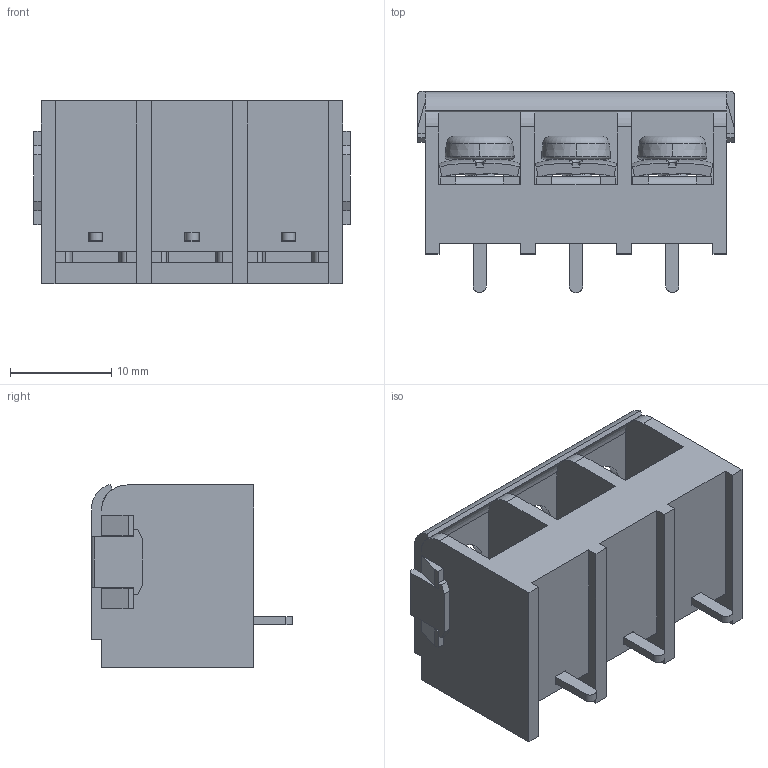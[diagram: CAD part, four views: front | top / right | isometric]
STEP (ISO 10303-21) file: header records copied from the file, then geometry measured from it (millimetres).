
FILE_DESCRIPTION((''),'2;1');
FILE_NAME('3PIN','2021-05-07T',('hanke'),(''),'CREO PARAMETRIC BY PTC INC, 2016260','CREO PARAMETRIC BY PTC INC, 2016260','');
FILE_SCHEMA(('CONFIG_CONTROL_DESIGN'));
Products named in the file (1): 3PIN
Bounding box: 31.2 x 19.8 x 18.05 mm (x, y, z)
Volume: 4595.3 mm3; surface area: 6932 mm2
Topology: 1 solids, 1 shells, 1101 faces, 3372 edges, 2203 vertices
Faces by surface type: plane 638, cylinder 229, bspline 153, cone 54, torus 27
Entity records: 59792 total; most frequent: CARTESIAN_POINT 31423, ORIENTED_EDGE 6732, DIRECTION 4835, EDGE_CURVE 3366, VERTEX_POINT 2203, VECTOR 1879, LINE 1879, AXIS2_PLACEMENT_3D 1478
